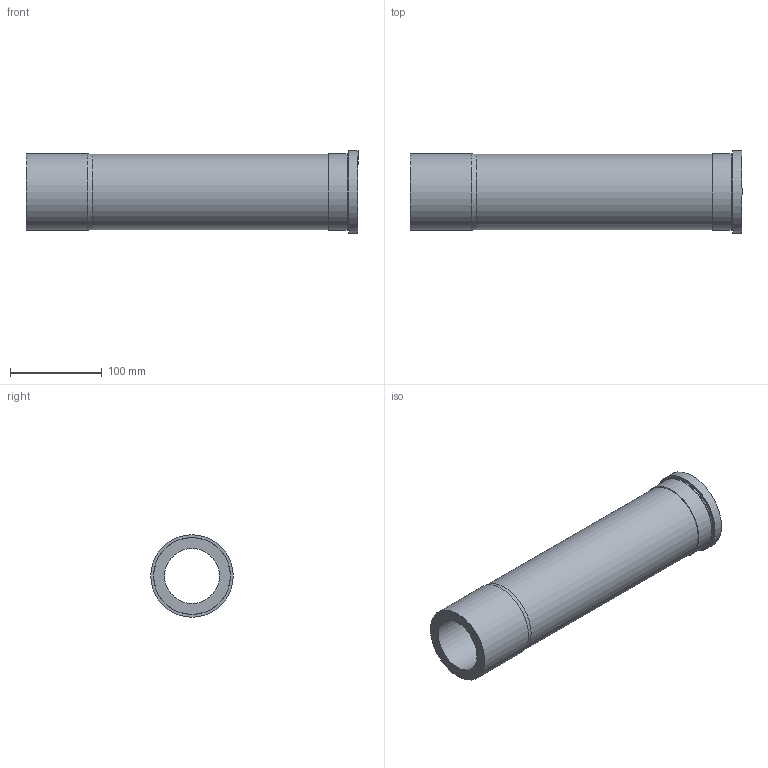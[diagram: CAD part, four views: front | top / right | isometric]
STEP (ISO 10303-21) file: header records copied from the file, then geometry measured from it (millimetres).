
FILE_DESCRIPTION(('STEP AP203'), '1');
FILE_NAME('27 Òîëêàòåëü òðóá÷àòûé _ ÏÔÍ 295 10627', '', ('UNSPECIFIED'), ('UNSPECIFIED'), 'C3D Converter', 'C3D Toolkit', '');
FILE_SCHEMA(('CONFIG_CONTROL_DESIGN'));
Length unit declared in the file: millimetre
Products named in the file (1): ПФН 295 106/27
Bounding box: 362.5 x 90 x 90 mm (x, y, z)
Volume: 893929.2 mm3; surface area: 170930.4 mm2
Topology: 1 solids, 1 shells, 14 faces, 23 edges, 14 vertices
Faces by surface type: cylinder 7, plane 5, cone 2
Full cylindrical faces by diameter (mm): 59.9 x1, 61 x1, 82 x1, 83 x1, 83.8 x1, 84 x1, 90 x1
Entity records: 435 total; most frequent: DIRECTION 58, CARTESIAN_POINT 43, AXIS2_PLACEMENT_3D 29, EDGE_LOOP 28, ORIENTED_EDGE 28, FACE_OUTER_BOUND 18, COLOUR_RGB 15, FILL_AREA_STYLE_COLOUR 15
